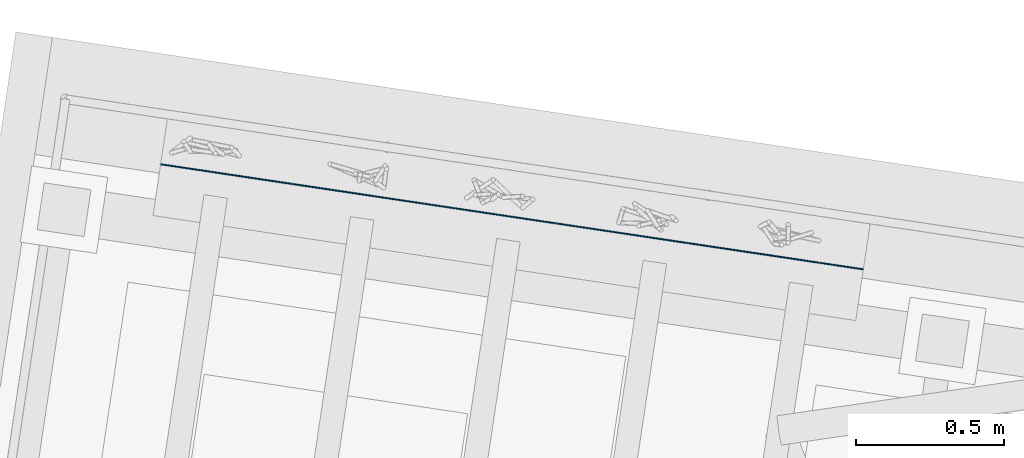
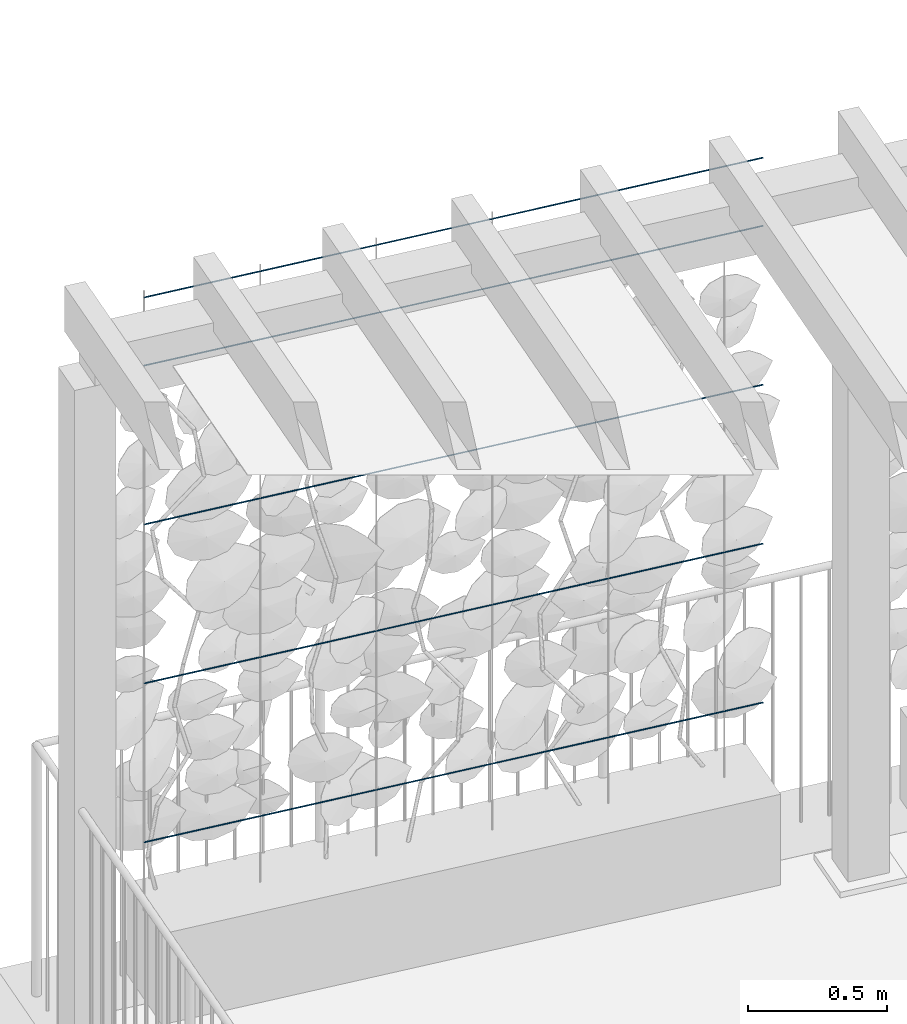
# One storey, part 27 of 128: 5 members, 1 element without a shape of its own.
"""IFC4 building model written with IfcOpenShell, lengths in metres."""

from ifc_helpers import new_model, si_unit, direction, frame, origin_with_axes, place, context, subcontext, project, spatial, circle, extrude, material, material_profile, profile_set, profile_usage, type_object, element, aggregate, save


model = new_model("IFC4")

# Units and contexts
model_context = context("Model", 3, precision=1e-05, world=origin_with_axes(), true_north=direction((0.0, 1.0)))
body_context = subcontext(model_context, "Body", "Model", "MODEL_VIEW")
ifc_project = project(units=[si_unit("VOLUMEUNIT", "CUBIC_METRE"), si_unit("LENGTHUNIT", "METRE"), si_unit("AREAUNIT", "SQUARE_METRE")], contexts=[model_context])

# Site, building, storey
site_placement = place(None, origin_with_axes())
site = spatial("IfcSite", under=ifc_project, at=site_placement, Name="Lares · Rua das Mercês · artigo 4771")
building_placement = place(site_placement, frame((15.0, 9.7, 13.9), z_axis=(0.0, 0.0, 1.0), x_axis=(0.989015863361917, -0.147809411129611, 0.0)))
building = spatial("IfcBuilding", under=site, at=building_placement, Name="Casa Sobreposta")
storey_placement = place(building_placement, origin_with_axes())
storey = spatial("IfcBuildingStorey", under=building, at=storey_placement, Name="00 · Habitação e estacionamento", Elevation=13.9)

# Assembly, members
assembly_placement = place(storey_placement, origin_with_axes())
assembly = element("IfcElementAssembly", 1, at=assembly_placement, inside=storey, Name="Fachada sul e pátio · estrutura e trepadeiras", ObjectType="LIVING_SHADE_TRELLIS", PredefinedType="USERDEFINED")
ifc_material = material(Name="Aço galvanizado / Stahl verzinkt", Category="steel")
ifc_material_profile = material_profile(ifc_material, circle(Radius=0.002))
ifc_profile_set = profile_set([ifc_material_profile], Name="D0.004")
ifc_profile_usage_1 = profile_usage(ifc_profile_set)
member_type = type_object("IfcMemberType", Name="D0.004 / galvanized", PredefinedType="NOTDEFINED", material=ifc_profile_set)
member_1_placement = place(assembly_placement, frame((-5.7, 6.48, 0.65), z_axis=(1.0, 0.0, 0.0), x_axis=(0.0, -1.0, 0.0)))
member_1 = element("IfcMember", 2, at=member_1_placement, type_object=member_type, material=ifc_profile_usage_1, Name="Trepadeiras · fio horizontal", context=body_context, shape_type="SweptSolid", body=[
    extrude(circle(Radius=0.002), origin_with_axes(), (0.0, 0.0, 1.0), 2.4),
])
ifc_profile_usage_2 = profile_usage(ifc_profile_set)
member_2_placement = place(assembly_placement, frame((-5.7, 6.48, 1.35), z_axis=(1.0, 0.0, 0.0), x_axis=(0.0, -1.0, 0.0)))
member_2 = element("IfcMember", 3, at=member_2_placement, type_object=member_type, material=ifc_profile_usage_2, Name="Trepadeiras · fio horizontal", context=body_context, shape_type="SweptSolid", body=[
    extrude(circle(Radius=0.002), origin_with_axes(), (0.0, 0.0, 1.0), 2.4),
])
ifc_profile_usage_3 = profile_usage(ifc_profile_set)
member_3_placement = place(assembly_placement, frame((-5.7, 6.48, 2.05), z_axis=(1.0, 0.0, 0.0), x_axis=(0.0, -1.0, 0.0)))
member_3 = element("IfcMember", 4, at=member_3_placement, type_object=member_type, material=ifc_profile_usage_3, Name="Trepadeiras · fio horizontal", context=body_context, shape_type="SweptSolid", body=[
    extrude(circle(Radius=0.002), origin_with_axes(), (0.0, 0.0, 1.0), 2.4),
])
ifc_profile_usage_4 = profile_usage(ifc_profile_set)
member_4_placement = place(assembly_placement, frame((-5.7, 6.48, 2.75), z_axis=(1.0, 0.0, 0.0), x_axis=(0.0, -1.0, 0.0)))
member_4 = element("IfcMember", 5, at=member_4_placement, type_object=member_type, material=ifc_profile_usage_4, Name="Trepadeiras · fio horizontal", context=body_context, shape_type="SweptSolid", body=[
    extrude(circle(Radius=0.002), origin_with_axes(), (0.0, 0.0, 1.0), 2.4),
])
ifc_profile_usage_5 = profile_usage(ifc_profile_set)
member_5_placement = place(assembly_placement, frame((-5.7, 6.48, 3.05), z_axis=(1.0, 0.0, 0.0), x_axis=(0.0, -1.0, 0.0)))
member_5 = element("IfcMember", 6, at=member_5_placement, type_object=member_type, material=ifc_profile_usage_5, Name="Trepadeiras · fio horizontal", context=body_context, shape_type="SweptSolid", body=[
    extrude(circle(Radius=0.002), origin_with_axes(), (0.0, 0.0, 1.0), 2.4),
])
aggregate(assembly, [member_1, member_2, member_3, member_4, member_5])

save(model, "model.ifc")
